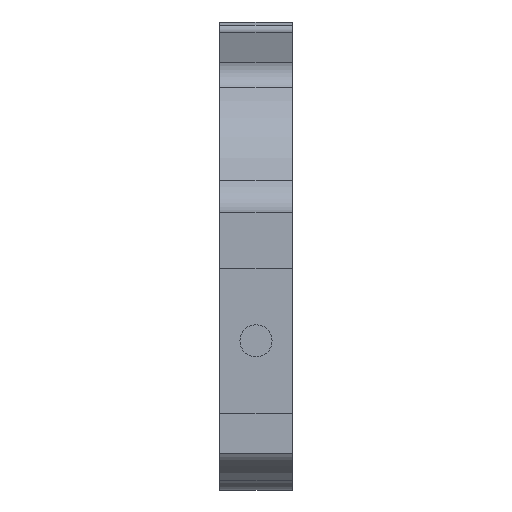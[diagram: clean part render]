
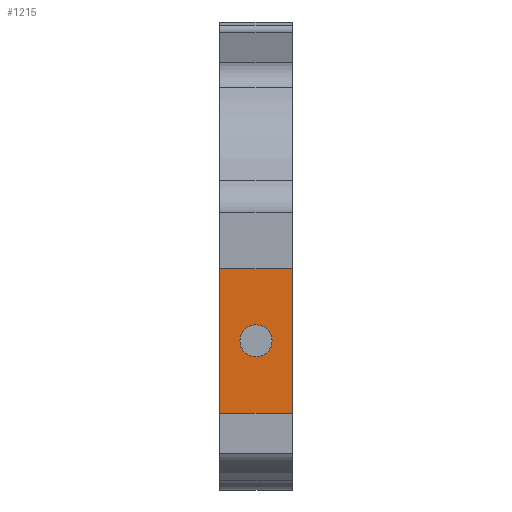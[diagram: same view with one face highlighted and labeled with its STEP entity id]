
A CAD part, front view. The second image highlights one B-rep face of the part: STEP entity #1215.
In plain terms, the highlighted planar face has unit normal (0, -1, 0).
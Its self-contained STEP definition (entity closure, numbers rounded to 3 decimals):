
#34=FACE_BOUND('',#432,.T.);
#57=LINE('',#1783,#167);
#84=LINE('',#1889,#194);
#139=LINE('',#2040,#249);
#141=LINE('',#2043,#251);
#167=VECTOR('',#1409,10.);
#194=VECTOR('',#1496,10.);
#249=VECTOR('',#1677,10.);
#251=VECTOR('',#1681,10.);
#342=FACE_OUTER_BOUND('',#431,.T.);
#431=EDGE_LOOP('',(#1070,#1071,#1072,#1073));
#432=EDGE_LOOP('',(#1074));
#485=CIRCLE('',#1281,2.);
#526=VERTEX_POINT('',#1780);
#527=VERTEX_POINT('',#1782);
#575=VERTEX_POINT('',#1886);
#576=VERTEX_POINT('',#1888);
#591=VERTEX_POINT('',#1920);
#642=EDGE_CURVE('',#526,#527,#57,.T.);
#695=EDGE_CURVE('',#575,#576,#84,.T.);
#711=EDGE_CURVE('',#591,#591,#485,.T.);
#769=EDGE_CURVE('',#527,#575,#139,.T.);
#771=EDGE_CURVE('',#576,#526,#141,.T.);
#1070=ORIENTED_EDGE('',*,*,#695,.F.);
#1071=ORIENTED_EDGE('',*,*,#769,.F.);
#1072=ORIENTED_EDGE('',*,*,#642,.F.);
#1073=ORIENTED_EDGE('',*,*,#771,.F.);
#1074=ORIENTED_EDGE('',*,*,#711,.T.);
#1150=PLANE('',#1339);
#1215=ADVANCED_FACE('',(#342,#34),#1150,.F.);
#1281=AXIS2_PLACEMENT_3D('',#1921,#1519,#1520);
#1339=AXIS2_PLACEMENT_3D('',#2044,#1682,#1683);
#1409=DIRECTION('',(0.,0.,1.));
#1496=DIRECTION('',(0.,0.,-1.));
#1519=DIRECTION('center_axis',(0.,1.,0.));
#1520=DIRECTION('ref_axis',(1.,0.,0.));
#1677=DIRECTION('',(1.,0.,0.));
#1681=DIRECTION('',(-1.,0.,0.));
#1682=DIRECTION('center_axis',(0.,1.,0.));
#1683=DIRECTION('ref_axis',(0.,0.,1.));
#1780=CARTESIAN_POINT('',(97.,6.,5.));
#1782=CARTESIAN_POINT('',(97.,6.,23.));
#1783=CARTESIAN_POINT('',(97.,6.,8.5));
#1886=CARTESIAN_POINT('',(106.,6.,23.));
#1888=CARTESIAN_POINT('',(106.,6.,5.));
#1889=CARTESIAN_POINT('',(106.,6.,8.5));
#1920=CARTESIAN_POINT('',(99.5,6.,14.));
#1921=CARTESIAN_POINT('Origin',(101.5,6.,14.));
#2040=CARTESIAN_POINT('',(106.05,6.,23.));
#2043=CARTESIAN_POINT('',(106.,6.,5.));
#2044=CARTESIAN_POINT('Origin',(101.5,6.,14.));
